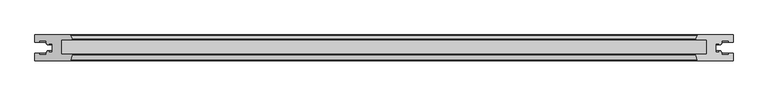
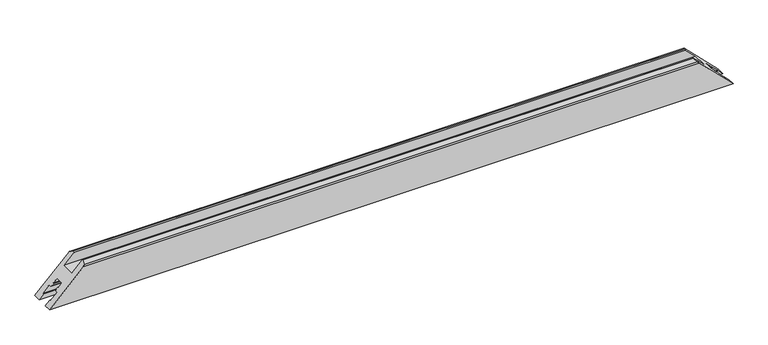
"""IFC4 building model written with IfcOpenShell, lengths in millimetres: proxy geometry, Weiku - Montante - Folha de correr 02.2.01.020 : Weiku - Montante - Folha de correr 02.2.01.020."""

from ifc_helpers import new_model, si_unit, frame, origin, place, context, project, spatial, ellipse_curve, source, transform, mapped, element, save
from ifc_brep_helpers import plane_surface, cylinder_surface, advanced_brep


def generic_models_f39ff203(model_context):
    return source(origin(), model_context, "Body", "AdvancedBrep", [
        advanced_brep(
        [(675.0, -50.0, 0.0), (608.5004942, -50.0, 66.4995058), (-608.5004942, -50.0, 66.4995058), (-675.0, -50.0, 0.0), (-675.0, -35.5, 0.0), (675.0, -35.5, 0.0), (-675.0, 0.0, 0.0), (-607.4879875, 0.0, 67.5120125), (607.4879875, 0.0, 67.5120125), (675.0, 0.0, 0.0), (-605.6027168, -47.7764571, 69.3972832), (-603.0177981, -38.1294095, 71.9822019), (-603.5007611, -37.5, 71.4992389), (-624.0007611, -37.5, 50.9992389), (-624.0007611, -9.5, 50.9992389), (-604.2141895, -9.5, 70.7858105), (-603.0520406, -7.617411, 71.9479594), (-606.5940268, -0.5518546, 68.4059732), (-675.0, -14.5, 0.0), (-666.4, -14.5, 8.6), (-666.4, -11.7, 8.6), (-653.2, -11.7, 21.8), (-653.2, -16.9, 21.8), (-650.8524152, -16.9, 24.1475848), (-651.0273926, -18.9, 23.9726074), (-648.2, -18.9, 26.8), (-648.2, -16.9, 26.8), (-641.0, -16.9, 34.0), (-641.0, -33.1, 34.0), (-648.2, -33.1, 26.8), (-648.2, -31.1, 26.8), (-651.0273926, -31.1, 23.9726074), (-650.8524152, -33.1, 24.1475848), (-653.2, -33.1, 21.8), (-653.2, -38.3, 21.8), (-666.4, -38.3, 8.6), (-666.4, -35.5, 8.6), (666.4, -35.5, 8.6), (666.4, -38.3, 8.6), (653.2, -38.3, 21.8), (653.2, -33.1, 21.8), (650.8524152, -33.1, 24.1475848), (651.0273926, -31.1, 23.9726074), (648.2, -31.1, 26.8), (648.2, -33.1, 26.8), (641.0, -33.1, 34.0), (641.0, -16.9, 34.0), (648.2, -16.9, 26.8), (648.2, -18.9, 26.8), (651.0273926, -18.9, 23.9726074), (650.8524152, -16.9, 24.1475848), (653.2, -16.9, 21.8), (653.2, -11.7, 21.8), (666.4, -11.7, 8.6), (666.4, -14.5, 8.6), (675.0, -14.5, 0.0), (606.5940268, -0.5518546, 68.4059732), (603.0520406, -7.617411, 71.9479594), (604.2141895, -9.5, 70.7858105), (624.0007611, -9.5, 50.9992389), (624.0007611, -37.5, 50.9992389), (603.5007611, -37.5, 71.4992389), (603.0177981, -38.1294095, 71.9822019), (605.6027168, -47.7764571, 69.3972832)],
        [
            (0, 1),
            (1, 2),
            (2, 3),
            (3, 0),
            (3, 4),
            (4, 5),
            (5, 0),
            (6, 7),
            (7, 8),
            (8, 9),
            (9, 6),
            (2, 10, ellipse_curve(frame((-608.5004942, -47.0, 66.4995058), z_axis=(-0.707106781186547, 0.0, 0.7071067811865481), x_axis=(-0.7071067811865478, 0.0, -0.707106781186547)), 4.2426407, 3.0)),
            (10, 11),
            (11, 12, ellipse_curve(frame((-603.5007611, -38.0, 71.4992389), z_axis=(-0.707106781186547, 0.0, 0.7071067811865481), x_axis=(-0.7071067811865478, 0.0, -0.707106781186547)), 0.7071068, 0.5)),
            (12, 13),
            (13, 14),
            (14, 15),
            (15, 16, ellipse_curve(frame((-604.2141895, -8.2, 70.7858105), z_axis=(-0.707106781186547, 0.0, 0.7071067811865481), x_axis=(-0.7071067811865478, 0.0, -0.707106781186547)), 1.8384776, 1.3)),
            (16, 17),
            (17, 7, ellipse_curve(frame((-607.4879875, -1.0, 67.5120125), z_axis=(-0.707106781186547, 0.0, 0.7071067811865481), x_axis=(-0.7071067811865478, 0.0, -0.707106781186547)), 1.4142136, 1.0)),
            (6, 18),
            (18, 19),
            (19, 20),
            (20, 21),
            (21, 22),
            (22, 23),
            (23, 24),
            (24, 25),
            (25, 26),
            (26, 27),
            (27, 28),
            (28, 29),
            (29, 30),
            (30, 31),
            (31, 32),
            (32, 33),
            (33, 34),
            (34, 35),
            (35, 36),
            (36, 4),
            (5, 37),
            (37, 38),
            (38, 39),
            (39, 40),
            (40, 41),
            (41, 42),
            (42, 43),
            (43, 44),
            (44, 45),
            (45, 46),
            (46, 47),
            (47, 48),
            (48, 49),
            (49, 50),
            (50, 51),
            (51, 52),
            (52, 53),
            (53, 54),
            (54, 55),
            (55, 9),
            (8, 56, ellipse_curve(frame((607.4879875, -1.0, 67.5120125), z_axis=(0.7071067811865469, 0.0, 0.7071067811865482), x_axis=(-0.707106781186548, 0.0, 0.7071067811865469)), 1.4142136, 1.0)),
            (56, 57),
            (57, 58, ellipse_curve(frame((604.2141895, -8.2, 70.7858105), z_axis=(0.7071067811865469, 0.0, 0.7071067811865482), x_axis=(-0.707106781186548, 0.0, 0.7071067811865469)), 1.8384776, 1.3)),
            (58, 59),
            (59, 60),
            (60, 61),
            (61, 62, ellipse_curve(frame((603.5007611, -38.0, 71.4992389), z_axis=(0.7071067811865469, 0.0, 0.7071067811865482), x_axis=(-0.707106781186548, 0.0, 0.7071067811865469)), 0.7071068, 0.5)),
            (62, 63),
            (63, 1, ellipse_curve(frame((608.5004942, -47.0, 66.4995058), z_axis=(0.7071067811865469, 0.0, 0.7071067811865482), x_axis=(-0.707106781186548, 0.0, 0.7071067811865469)), 4.2426407, 3.0)),
            (17, 56),
            (16, 57),
            (15, 58),
            (14, 59),
            (13, 60),
            (12, 61),
            (11, 62),
            (10, 63),
            (36, 37),
            (35, 38),
            (34, 39),
            (33, 40),
            (32, 41),
            (31, 42),
            (30, 43),
            (29, 44),
            (28, 45),
            (27, 46),
            (26, 47),
            (25, 48),
            (24, 49),
            (23, 50),
            (22, 51),
            (21, 52),
            (20, 53),
            (19, 54),
            (18, 55),
        ],
        [
            plane_surface(frame((-675.0, -50.0, 66.4995058), z_axis=(0.0, -1.0, 0.0), x_axis=(1.0, 0.0, 0.0))),
            plane_surface(frame((-675.0, -50.0, 0.0), z_axis=(0.0, 0.0, -1.0), x_axis=(1.0, 0.0, 0.0))),
            plane_surface(frame((-675.0, 0.0, 0.0), z_axis=(0.0, 1.0, 0.0), x_axis=(1.0, 0.0, 0.0))),
            plane_surface(frame((-703.2842712, 0.0, -28.2842712), z_axis=(-0.707106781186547, 0.0, 0.7071067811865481), x_axis=(0.0, -1.0, 0.0))),
            plane_surface(frame((595.0, 0.0, 80.0), z_axis=(0.7071067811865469, 0.0, 0.7071067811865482), x_axis=(0.0, -1.0, 0.0))),
            cylinder_surface(frame((-675.0, -1.0, 67.5120125), z_axis=(-1.0, 0.0, 0.0), x_axis=(0.0, -1.0, 0.0)), 1.0),
            plane_surface(frame((-675.0, -0.5518546, 68.4059732), z_axis=(0.0, 0.4481453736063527, 0.8939606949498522), x_axis=(1.0, 0.0, 0.0))),
            cylinder_surface(frame((-675.0, -8.2, 70.7858105), z_axis=(-1.0, 0.0, 0.0), x_axis=(0.0, -1.0, 0.0)), 1.3),
            plane_surface(frame((-675.0, -9.5, 70.7858105), z_axis=(0.0, -1.0, 0.0), x_axis=(1.0, 0.0, 0.0))),
            plane_surface(frame((-675.0, -9.5, 50.9992389), z_axis=(0.0, 0.0, 1.0), x_axis=(1.0, 0.0, 0.0))),
            plane_surface(frame((-675.0, -37.5, 50.9992389), z_axis=(0.0, 1.0, 0.0), x_axis=(1.0, 0.0, 0.0))),
            cylinder_surface(frame((-675.0, -38.0, 71.4992389), z_axis=(-1.0, 0.0, 0.0), x_axis=(0.0, -1.0, 0.0)), 0.5),
            plane_surface(frame((-675.0, -38.1294095, 71.9822019), z_axis=(0.0, -0.2588190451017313, 0.9659258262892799), x_axis=(1.0, 0.0, 0.0))),
            cylinder_surface(frame((-675.0, -47.0, 66.4995058), z_axis=(-1.0, 0.0, 0.0), x_axis=(0.0, -1.0, 0.0)), 3.0),
            plane_surface(frame((-675.0, -35.5, 0.0), z_axis=(0.0, 1.0, 0.0), x_axis=(1.0, 0.0, 0.0))),
            plane_surface(frame((-675.0, -35.5, 8.6), z_axis=(0.0, 0.0, 1.0), x_axis=(1.0, 0.0, 0.0))),
            plane_surface(frame((-675.0, -38.3, 8.6), z_axis=(0.0, 1.0, 0.0), x_axis=(1.0, 0.0, 0.0))),
            plane_surface(frame((-675.0, -38.3, 21.8), z_axis=(0.0, 0.0, -1.0), x_axis=(1.0, 0.0, 0.0))),
            plane_surface(frame((-675.0, -33.1, 21.8), z_axis=(0.0, 1.0, 0.0), x_axis=(1.0, 0.0, 0.0))),
            plane_surface(frame((-675.0, -33.1, 24.1475848), z_axis=(0.0, -0.08715574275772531, -0.9961946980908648), x_axis=(1.0, 0.0, 0.0))),
            plane_surface(frame((-675.0, -31.1, 23.9726074), z_axis=(0.0, 1.0, 0.0), x_axis=(1.0, 0.0, 0.0))),
            plane_surface(frame((-675.0, -31.1, 26.8), z_axis=(0.0, 0.0, 1.0), x_axis=(1.0, 0.0, 0.0))),
            plane_surface(frame((-675.0, -33.1, 26.8), z_axis=(0.0, 1.0, 0.0), x_axis=(1.0, 0.0, 0.0))),
            plane_surface(frame((-675.0, -33.1, 34.0), z_axis=(0.0, 0.0, -1.0), x_axis=(1.0, 0.0, 0.0))),
            plane_surface(frame((-675.0, -16.9, 34.0), z_axis=(0.0, -1.0, 0.0), x_axis=(1.0, 0.0, 0.0))),
            plane_surface(frame((-675.0, -16.9, 26.8), z_axis=(0.0, 0.0, 1.0), x_axis=(1.0, 0.0, 0.0))),
            plane_surface(frame((-675.0, -18.9, 26.8), z_axis=(0.0, -1.0, 0.0), x_axis=(1.0, 0.0, 0.0))),
            plane_surface(frame((-675.0, -18.9, 23.9726074), z_axis=(0.0, 0.08715574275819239, -0.9961946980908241), x_axis=(1.0, 0.0, 0.0))),
            plane_surface(frame((-675.0, -16.9, 24.1475848), z_axis=(0.0, -1.0, 0.0), x_axis=(1.0, 0.0, 0.0))),
            plane_surface(frame((-675.0, -16.9, 21.8), z_axis=(0.0, 0.0, -1.0), x_axis=(1.0, 0.0, 0.0))),
            plane_surface(frame((-675.0, -11.7, 21.8), z_axis=(0.0, -1.0, 0.0), x_axis=(1.0, 0.0, 0.0))),
            plane_surface(frame((-675.0, -11.7, 8.6), z_axis=(0.0, 0.0, 1.0), x_axis=(1.0, 0.0, 0.0))),
            plane_surface(frame((-675.0, -14.5, 8.6), z_axis=(0.0, -1.0, 0.0), x_axis=(1.0, 0.0, 0.0))),
            plane_surface(frame((-675.0, -14.5, 0.0), z_axis=(0.0, 0.0, -1.0), x_axis=(1.0, 0.0, 0.0))),
        ],
        [
            (0, [[1, 2, 3, 4]]),
            (1, [[5, 6, 7, -4]]),
            (2, [[8, 9, 10, 11]]),
            (3, [[12, 13, 14, 15, 16, 17, 18, 19, 20, -8, 21, 22, 23, 24, 25, 26, 27, 28, 29, 30, 31, 32, 33, 34, 35, 36, 37, 38, 39, 40, -5, -3]]),
            (4, [[-7, 41, 42, 43, 44, 45, 46, 47, 48, 49, 50, 51, 52, 53, 54, 55, 56, 57, 58, 59, 60, -10, 61, 62, 63, 64, 65, 66, 67, 68, 69, -1]]),
            (5, [[70, -61, -9, -20]]),
            (6, [[71, -62, -70, -19]]),
            (7, [[72, -63, -71, -18]]),
            (8, [[73, -64, -72, -17]]),
            (9, [[74, -65, -73, -16]]),
            (10, [[75, -66, -74, -15]]),
            (11, [[76, -67, -75, -14]]),
            (12, [[77, -68, -76, -13]]),
            (13, [[-2, -69, -77, -12]]),
            (14, [[-40, 78, -41, -6]]),
            (15, [[79, -42, -78, -39]]),
            (16, [[80, -43, -79, -38]]),
            (17, [[81, -44, -80, -37]]),
            (18, [[82, -45, -81, -36]]),
            (19, [[83, -46, -82, -35]]),
            (20, [[84, -47, -83, -34]]),
            (21, [[85, -48, -84, -33]]),
            (22, [[86, -49, -85, -32]]),
            (23, [[87, -50, -86, -31]]),
            (24, [[88, -51, -87, -30]]),
            (25, [[89, -52, -88, -29]]),
            (26, [[90, -53, -89, -28]]),
            (27, [[91, -54, -90, -27]]),
            (28, [[92, -55, -91, -26]]),
            (29, [[93, -56, -92, -25]]),
            (30, [[94, -57, -93, -24]]),
            (31, [[95, -58, -94, -23]]),
            (32, [[-59, -95, -22, 96]]),
            (33, [[-60, -96, -21, -11]]),
        ],
    ),
    ])


if __name__ == "__main__":
    model = new_model("IFC4")
    model_context = context("Model", 3, world=origin())
    ifc_project = project(units=[si_unit("LENGTHUNIT", "METRE", prefix="MILLI")], contexts=[model_context])
    site = spatial("IfcSite", under=ifc_project)
    building = spatial("IfcBuilding", under=site)
    placement = place(None, origin())
    generic_models_shape = generic_models_f39ff203(model_context)
    element("IfcBuildingElementProxy", 1, Name="Weiku - Montante - Folha de correr 02.2.01.020 : Weiku - Montante - Folha de correr 02.2.01.020", ObjectType="Weiku - Montante - Folha de correr 02.2.01.020 : Weiku - Montante - Folha de correr 02.2.01.020", at=placement, inside=building, context=model_context, shape_type="MappedRepresentation", body=[
        mapped(generic_models_shape, transform((0.0, 0.0, 0.0), x_axis=(1.0, 0.0, 0.0), y_axis=(0.0, 1.0, 0.0), z_axis=(0.0, 0.0, 1.0))),
    ])
    save(model, "model.ifc")
